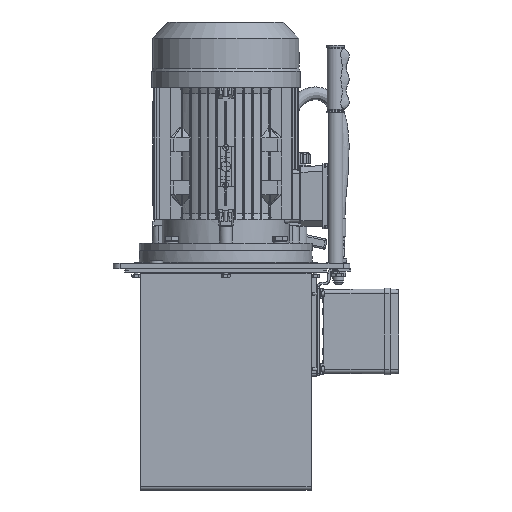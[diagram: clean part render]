
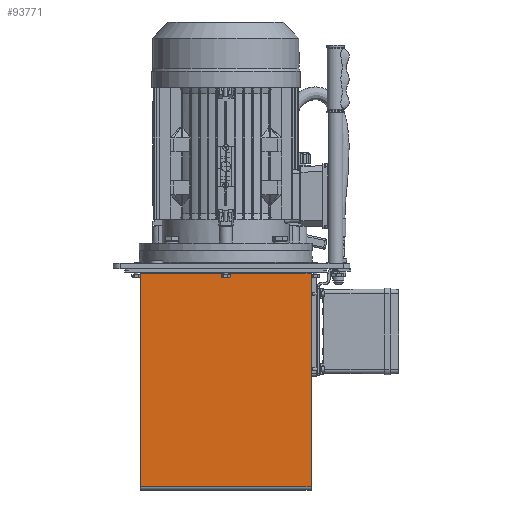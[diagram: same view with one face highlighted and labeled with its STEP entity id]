
A CAD part, left-side view. The second image highlights one B-rep face of the part: STEP entity #93771.
In plain terms, the highlighted planar face has unit normal (-1, 0, 0).
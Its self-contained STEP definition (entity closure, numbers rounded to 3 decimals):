
#7780=LINE('',#182550,#14463);
#7785=LINE('',#182566,#14468);
#7802=LINE('',#182597,#14485);
#7805=LINE('',#182602,#14488);
#14463=VECTOR('',#122382,368.895);
#14468=VECTOR('',#122401,368.895);
#14485=VECTOR('',#122430,295.);
#14488=VECTOR('',#122437,295.);
#18579=PLANE('',#102019);
#24979=FACE_OUTER_BOUND('',#30966,.T.);
#30966=EDGE_LOOP('',(#76741,#76742,#76743,#76744));
#42535=VERTEX_POINT('',#182547);
#42536=VERTEX_POINT('',#182549);
#42539=VERTEX_POINT('',#182563);
#42540=VERTEX_POINT('',#182565);
#54303=EDGE_CURVE('',#42536,#42535,#7780,.T.);
#54314=EDGE_CURVE('',#42540,#42539,#7785,.T.);
#54332=EDGE_CURVE('',#42535,#42540,#7802,.T.);
#54335=EDGE_CURVE('',#42536,#42539,#7805,.T.);
#76741=ORIENTED_EDGE('',*,*,#54332,.T.);
#76742=ORIENTED_EDGE('',*,*,#54314,.T.);
#76743=ORIENTED_EDGE('',*,*,#54335,.F.);
#76744=ORIENTED_EDGE('',*,*,#54303,.T.);
#93771=ADVANCED_FACE('',(#24979),#18579,.F.);
#102019=AXIS2_PLACEMENT_3D('',#182601,#122435,#122436);
#122382=DIRECTION('',(0.,0.,1.));
#122401=DIRECTION('',(0.,0.,-1.));
#122430=DIRECTION('',(0.,1.,0.));
#122435=DIRECTION('center_axis',(1.,0.,0.));
#122436=DIRECTION('ref_axis',(0.,0.,1.));
#122437=DIRECTION('',(0.,1.,0.));
#182547=CARTESIAN_POINT('',(-1336.176,-746.003,-67.633));
#182549=CARTESIAN_POINT('',(-1336.176,-746.003,-436.528));
#182550=CARTESIAN_POINT('',(-1336.176,-746.003,-442.081));
#182563=CARTESIAN_POINT('',(-1336.176,-451.003,-436.528));
#182565=CARTESIAN_POINT('',(-1336.176,-451.003,-67.633));
#182566=CARTESIAN_POINT('',(-1336.176,-451.003,-62.081));
#182597=CARTESIAN_POINT('',(-1336.176,-524.753,-67.633));
#182601=CARTESIAN_POINT('Origin',(-1336.176,-598.503,-252.081));
#182602=CARTESIAN_POINT('',(-1336.176,-451.003,-436.528));
